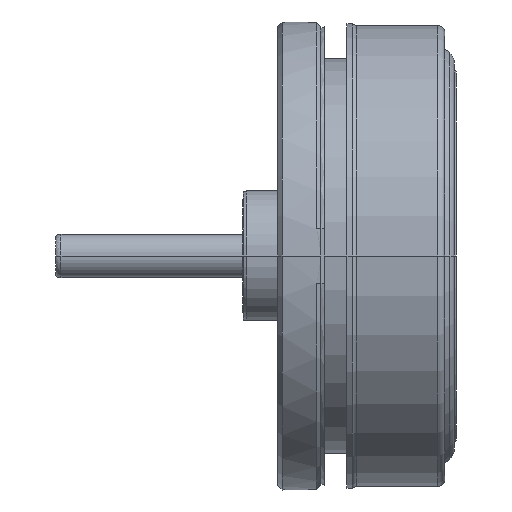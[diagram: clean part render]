
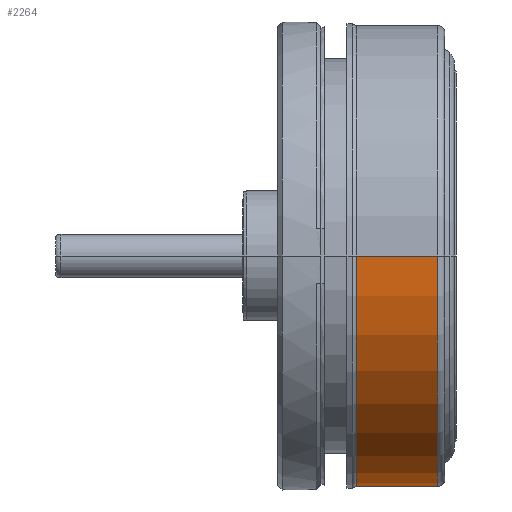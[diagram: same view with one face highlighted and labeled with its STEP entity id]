
A CAD part, front view. The second image highlights one B-rep face of the part: STEP entity #2264.
In plain terms, the highlighted cylindrical face has radius 21.3 mm (diameter 42.6 mm), a partial arc.
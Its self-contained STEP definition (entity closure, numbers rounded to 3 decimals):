
#905=CARTESIAN_POINT('',(7.241,0.,0.));
#906=DIRECTION('',(-1.,0.,0.));
#907=DIRECTION('',(0.,1.,0.));
#908=AXIS2_PLACEMENT_3D('',#905,#906,#907);
#913=CARTESIAN_POINT('',(14.727,0.,0.));
#914=DIRECTION('',(-1.,0.,0.));
#915=DIRECTION('',(0.,1.,0.));
#916=AXIS2_PLACEMENT_3D('',#913,#914,#915);
#921=DIRECTION('',(-1.,0.,0.));
#922=VECTOR('',#921,7.486);
#923=CARTESIAN_POINT('',(14.727,21.3,0.));
#924=LINE('',#923,#922);
#936=DIRECTION('',(-1.,0.,0.));
#937=VECTOR('',#936,7.486);
#938=CARTESIAN_POINT('',(14.727,-21.3,0.));
#939=LINE('',#938,#937);
#1309=CARTESIAN_POINT('',(14.727,21.3,0.));
#1310=VERTEX_POINT('',#1309);
#1311=CARTESIAN_POINT('',(7.241,21.3,0.));
#1312=VERTEX_POINT('',#1311);
#1345=CARTESIAN_POINT('',(14.727,-21.3,0.));
#1346=VERTEX_POINT('',#1345);
#1347=CARTESIAN_POINT('',(7.241,-21.3,0.));
#1348=VERTEX_POINT('',#1347);
#2250=CARTESIAN_POINT('',(18.35,0.,0.));
#2251=DIRECTION('',(-1.,0.,0.));
#2252=DIRECTION('',(0.,1.,0.));
#2253=AXIS2_PLACEMENT_3D('',#2250,#2251,#2252);
#2254=CYLINDRICAL_SURFACE('',#2253,21.3);
#2256=ORIENTED_EDGE('',*,*,#2255,.T.);
#2257=ORIENTED_EDGE('',*,*,#2245,.T.);
#2259=ORIENTED_EDGE('',*,*,#2258,.F.);
#2261=ORIENTED_EDGE('',*,*,#2260,.F.);
#2262=EDGE_LOOP('',(#2256,#2257,#2259,#2261));
#2263=FACE_OUTER_BOUND('',#2262,.F.);
#2264=ADVANCED_FACE('',(#2263),#2254,.T.);
#909=CIRCLE('',#908,21.3);
#917=CIRCLE('',#916,21.3);
#2245=EDGE_CURVE('',#1312,#1348,#909,.T.);
#2255=EDGE_CURVE('',#1310,#1312,#924,.T.);
#2258=EDGE_CURVE('',#1346,#1348,#939,.T.);
#2260=EDGE_CURVE('',#1310,#1346,#917,.T.);
